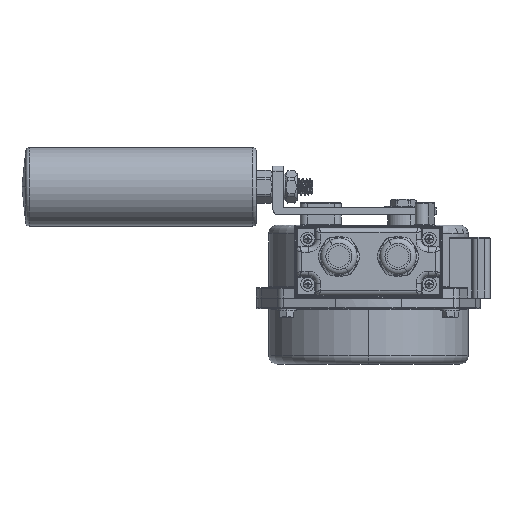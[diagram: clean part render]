
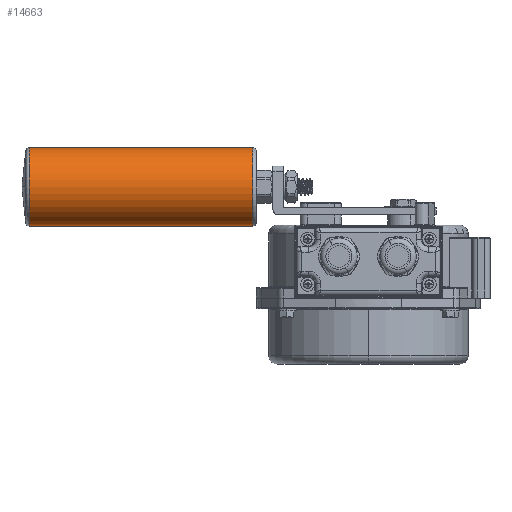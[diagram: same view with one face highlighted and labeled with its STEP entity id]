
A CAD part, front view. The second image highlights one B-rep face of the part: STEP entity #14663.
In plain terms, the highlighted cylindrical face has radius 22.5 mm (diameter 45 mm), a partial arc.
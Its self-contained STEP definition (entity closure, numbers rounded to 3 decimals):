
#440 = DIRECTION ( 'NONE',  ( 0., 0., 1. ) ) ;
#1691 = CIRCLE ( 'NONE', #14062, 22.5 ) ;
#2095 = CYLINDRICAL_SURFACE ( 'NONE', #18134, 22.5 ) ;
#2847 = VERTEX_POINT ( 'NONE', #16987 ) ;
#3184 = EDGE_LOOP ( 'NONE', ( #21764, #5517, #7468, #11393 ) ) ;
#3373 = DIRECTION ( 'NONE',  ( 0., 1., 0. ) ) ;
#3481 = CARTESIAN_POINT ( 'NONE',  ( 0., 2., -22.5 ) ) ;
#3850 = VECTOR ( 'NONE', #3373, 1000. ) ;
#4005 = AXIS2_PLACEMENT_3D ( 'NONE', #14777, #21510, #6382 ) ;
#4580 = DIRECTION ( 'NONE',  ( 0., 1., 0. ) ) ;
#5517 = ORIENTED_EDGE ( 'NONE', *, *, #9769, .T. ) ;
#6382 = DIRECTION ( 'NONE',  ( 0., 0., -1. ) ) ;
#7468 = ORIENTED_EDGE ( 'NONE', *, *, #19192, .T. ) ;
#7806 = CARTESIAN_POINT ( 'NONE',  ( 0., 2., 0. ) ) ;
#8869 = CARTESIAN_POINT ( 'NONE',  ( 0., 57.502, 0. ) ) ;
#9769 = EDGE_CURVE ( 'NONE', #16463, #21054, #1691, .T. ) ;
#10856 = EDGE_CURVE ( 'NONE', #16463, #14054, #11803, .T. ) ;
#11393 = ORIENTED_EDGE ( 'NONE', *, *, #15047, .T. ) ;
#11803 = LINE ( 'NONE', #18522, #3850 ) ;
#11849 = VECTOR ( 'NONE', #4580, 1000. ) ;
#12995 = LINE ( 'NONE', #19731, #11849 ) ;
#13559 = CIRCLE ( 'NONE', #4005, 22.5 ) ;
#14054 = VERTEX_POINT ( 'NONE', #15399 ) ;
#14062 = AXIS2_PLACEMENT_3D ( 'NONE', #7806, #14537, #21275 ) ;
#14537 = DIRECTION ( 'NONE',  ( 0., 1., 0. ) ) ;
#14663 = ADVANCED_FACE ( 'NONE', ( #17247 ), #2095, .T. ) ;
#14777 = CARTESIAN_POINT ( 'NONE',  ( 0., 130.887, 0. ) ) ;
#15047 = EDGE_CURVE ( 'NONE', #2847, #14054, #13559, .T. ) ;
#15268 = CARTESIAN_POINT ( 'NONE',  ( 0., 2., 22.5 ) ) ;
#15399 = CARTESIAN_POINT ( 'NONE',  ( 0., 130.887, -22.5 ) ) ;
#15592 = DIRECTION ( 'NONE',  ( 0., 1., 0. ) ) ;
#16463 = VERTEX_POINT ( 'NONE', #3481 ) ;
#16987 = CARTESIAN_POINT ( 'NONE',  ( 0., 130.887, 22.5 ) ) ;
#17247 = FACE_OUTER_BOUND ( 'NONE', #3184, .T. ) ;
#18134 = AXIS2_PLACEMENT_3D ( 'NONE', #8869, #15592, #440 ) ;
#18522 = CARTESIAN_POINT ( 'NONE',  ( 0., 57.502, -22.5 ) ) ;
#19192 = EDGE_CURVE ( 'NONE', #21054, #2847, #12995, .T. ) ;
#19731 = CARTESIAN_POINT ( 'NONE',  ( 0., 57.502, 22.5 ) ) ;
#21054 = VERTEX_POINT ( 'NONE', #15268 ) ;
#21275 = DIRECTION ( 'NONE',  ( 0., 0., 1. ) ) ;
#21510 = DIRECTION ( 'NONE',  ( 0., -1., 0. ) ) ;
#21764 = ORIENTED_EDGE ( 'NONE', *, *, #10856, .F. ) ;
